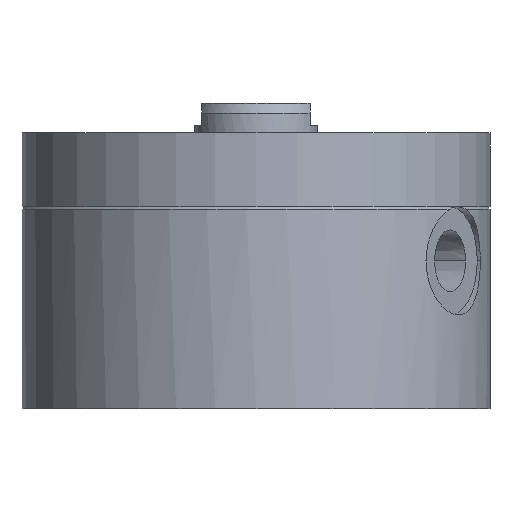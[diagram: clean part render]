
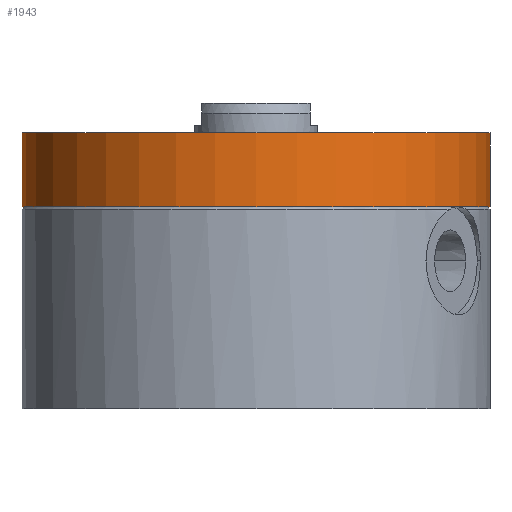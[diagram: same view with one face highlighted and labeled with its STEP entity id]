
A CAD part, front view. The second image highlights one B-rep face of the part: STEP entity #1943.
In plain terms, the highlighted cylindrical face has radius 47.5 mm (diameter 95 mm), a partial arc.
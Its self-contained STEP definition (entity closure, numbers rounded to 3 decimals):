
#175 = ORIENTED_EDGE ( 'NONE', *, *, #1057, .F. ) ;
#345 = AXIS2_PLACEMENT_3D ( 'NONE', #2819, #1280, #446 ) ;
#361 = AXIS2_PLACEMENT_3D ( 'NONE', #1024, #2077, #2574 ) ;
#446 = DIRECTION ( 'NONE',  ( 1., 0., 0. ) ) ;
#766 = CARTESIAN_POINT ( 'NONE',  ( 47.5, 0., 56. ) ) ;
#791 = DIRECTION ( 'NONE',  ( 0., 0., -1. ) ) ;
#866 = CIRCLE ( 'NONE', #361, 47.5 ) ;
#875 = EDGE_CURVE ( 'NONE', #1761, #3376, #1859, .T. ) ;
#885 = CIRCLE ( 'NONE', #345, 47.5 ) ;
#931 = AXIS2_PLACEMENT_3D ( 'NONE', #2624, #2646, #2614 ) ;
#1024 = CARTESIAN_POINT ( 'NONE',  ( 0., 0., 56. ) ) ;
#1057 = EDGE_CURVE ( 'NONE', #2469, #3391, #1790, .T. ) ;
#1166 = DIRECTION ( 'NONE',  ( 0., 0., -1. ) ) ;
#1207 = CARTESIAN_POINT ( 'NONE',  ( -47.5, 0., 56. ) ) ;
#1248 = CYLINDRICAL_SURFACE ( 'NONE', #931, 47.5 ) ;
#1252 = CARTESIAN_POINT ( 'NONE',  ( 47.5, 0., 41. ) ) ;
#1271 = FACE_OUTER_BOUND ( 'NONE', #1878, .T. ) ;
#1280 = DIRECTION ( 'NONE',  ( 0., 0., 1. ) ) ;
#1410 = CARTESIAN_POINT ( 'NONE',  ( -47.5, 0., 41. ) ) ;
#1455 = ORIENTED_EDGE ( 'NONE', *, *, #2730, .F. ) ;
#1746 = VECTOR ( 'NONE', #791, 1000. ) ;
#1761 = VERTEX_POINT ( 'NONE', #1887 ) ;
#1790 = LINE ( 'NONE', #766, #1746 ) ;
#1852 = VECTOR ( 'NONE', #1166, 1000. ) ;
#1859 = LINE ( 'NONE', #1207, #1852 ) ;
#1878 = EDGE_LOOP ( 'NONE', ( #175, #1455, #2275, #1923 ) ) ;
#1887 = CARTESIAN_POINT ( 'NONE',  ( -47.5, 0., 56. ) ) ;
#1923 = ORIENTED_EDGE ( 'NONE', *, *, #2738, .T. ) ;
#1943 = ADVANCED_FACE ( 'NONE', ( #1271 ), #1248, .T. ) ;
#2072 = CARTESIAN_POINT ( 'NONE',  ( 47.5, 0., 56. ) ) ;
#2077 = DIRECTION ( 'NONE',  ( 0., 0., 1. ) ) ;
#2275 = ORIENTED_EDGE ( 'NONE', *, *, #875, .T. ) ;
#2469 = VERTEX_POINT ( 'NONE', #2072 ) ;
#2574 = DIRECTION ( 'NONE',  ( 1., 0., 0. ) ) ;
#2614 = DIRECTION ( 'NONE',  ( -1., 0., 0. ) ) ;
#2624 = CARTESIAN_POINT ( 'NONE',  ( 0., 0., 56. ) ) ;
#2646 = DIRECTION ( 'NONE',  ( 0., 0., -1. ) ) ;
#2730 = EDGE_CURVE ( 'NONE', #1761, #2469, #866, .T. ) ;
#2738 = EDGE_CURVE ( 'NONE', #3376, #3391, #885, .T. ) ;
#2819 = CARTESIAN_POINT ( 'NONE',  ( 0., 0., 41. ) ) ;
#3376 = VERTEX_POINT ( 'NONE', #1410 ) ;
#3391 = VERTEX_POINT ( 'NONE', #1252 ) ;
